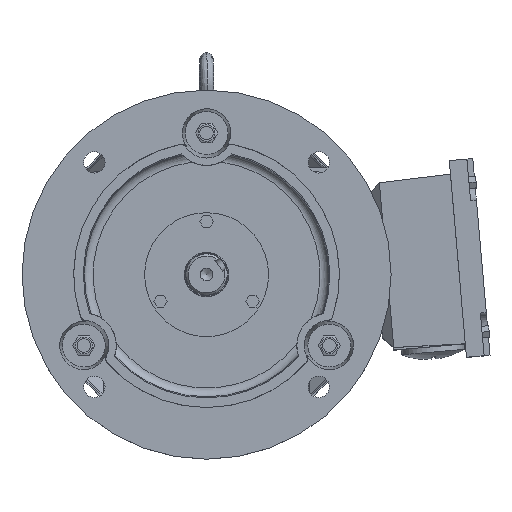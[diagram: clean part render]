
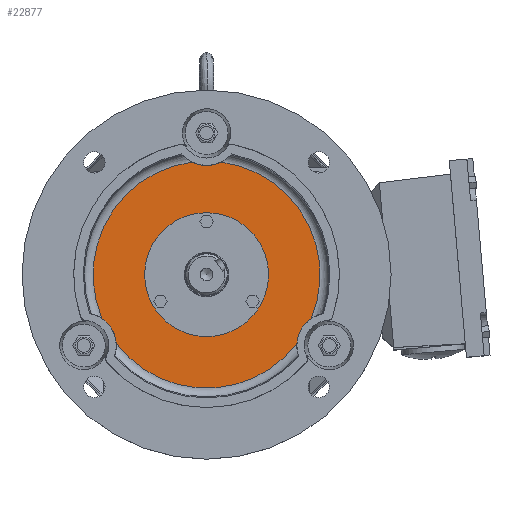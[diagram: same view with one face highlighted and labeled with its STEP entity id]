
A CAD part, top view. The second image highlights one B-rep face of the part: STEP entity #22877.
In plain terms, the highlighted planar face has unit normal (0, 0, 1) as drawn and (-1, 0, 0) by its records, which use the part's own axes.
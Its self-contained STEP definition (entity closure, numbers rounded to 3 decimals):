
#918=PLANE('',#25154);
#1125=FACE_BOUND('',#4036,.T.);
#2608=FACE_OUTER_BOUND('',#4035,.T.);
#4035=EDGE_LOOP('',(#20776,#20777,#20778,#20779,#20780,#20781));
#4036=EDGE_LOOP('',(#20782));
#4997=CIRCLE('',#25054,42.);
#5022=CIRCLE('',#25088,22.);
#5036=CIRCLE('',#25107,76.849);
#5057=CIRCLE('',#25137,76.849);
#5060=CIRCLE('',#25142,76.849);
#5067=CIRCLE('',#25155,22.);
#5068=CIRCLE('',#25156,22.);
#11087=VERTEX_POINT('',#40044);
#11113=VERTEX_POINT('',#40113);
#11114=VERTEX_POINT('',#40126);
#11130=VERTEX_POINT('',#40185);
#11131=VERTEX_POINT('',#40186);
#11175=VERTEX_POINT('',#40333);
#11178=VERTEX_POINT('',#40357);
#14293=EDGE_CURVE('',#11087,#11087,#4997,.T.);
#14327=EDGE_CURVE('',#11113,#11114,#5022,.T.);
#14348=EDGE_CURVE('',#11130,#11131,#5036,.T.);
#14397=EDGE_CURVE('',#11113,#11175,#5057,.T.);
#14401=EDGE_CURVE('',#11178,#11114,#5060,.T.);
#14426=EDGE_CURVE('',#11130,#11175,#5067,.T.);
#14427=EDGE_CURVE('',#11178,#11131,#5068,.T.);
#20776=ORIENTED_EDGE('',*,*,#14397,.T.);
#20777=ORIENTED_EDGE('',*,*,#14426,.F.);
#20778=ORIENTED_EDGE('',*,*,#14348,.T.);
#20779=ORIENTED_EDGE('',*,*,#14427,.F.);
#20780=ORIENTED_EDGE('',*,*,#14401,.T.);
#20781=ORIENTED_EDGE('',*,*,#14327,.F.);
#20782=ORIENTED_EDGE('',*,*,#14293,.F.);
#22877=ADVANCED_FACE('',(#2608,#1125),#918,.F.);
#25054=AXIS2_PLACEMENT_3D('',#40046,#31157,#31158);
#25088=AXIS2_PLACEMENT_3D('',#40127,#31233,#31234);
#25107=AXIS2_PLACEMENT_3D('',#40187,#31275,#31276);
#25137=AXIS2_PLACEMENT_3D('',#40346,#31356,#31357);
#25142=AXIS2_PLACEMENT_3D('',#40358,#31366,#31367);
#25154=AXIS2_PLACEMENT_3D('',#40535,#31392,#31393);
#25155=AXIS2_PLACEMENT_3D('',#40536,#31394,#31395);
#25156=AXIS2_PLACEMENT_3D('',#40537,#31396,#31397);
#31157=DIRECTION('center_axis',(-1.,0.,0.));
#31158=DIRECTION('ref_axis',(0.,0.,1.));
#31233=DIRECTION('center_axis',(-1.,0.,0.));
#31234=DIRECTION('ref_axis',(0.,0.,-1.));
#31275=DIRECTION('center_axis',(-1.,0.,0.));
#31276=DIRECTION('ref_axis',(0.,0.,1.));
#31356=DIRECTION('center_axis',(-1.,0.,0.));
#31357=DIRECTION('ref_axis',(0.,0.,1.));
#31366=DIRECTION('center_axis',(-1.,0.,0.));
#31367=DIRECTION('ref_axis',(0.,0.,1.));
#31392=DIRECTION('center_axis',(1.,0.,0.));
#31393=DIRECTION('ref_axis',(0.,0.,-1.));
#31394=DIRECTION('center_axis',(-1.,0.,0.));
#31395=DIRECTION('ref_axis',(0.,0.,-1.));
#31396=DIRECTION('center_axis',(-1.,0.,0.));
#31397=DIRECTION('ref_axis',(0.,0.,-1.));
#40044=CARTESIAN_POINT('',(9.,0.,-42.));
#40046=CARTESIAN_POINT('Origin',(9.,0.,0.));
#40113=CARTESIAN_POINT('',(9.,-46.493,-61.19));
#40126=CARTESIAN_POINT('',(9.,-29.746,-70.859));
#40127=CARTESIAN_POINT('Origin',(9.,-48.,-83.138));
#40185=CARTESIAN_POINT('',(9.,-29.746,70.859));
#40186=CARTESIAN_POINT('',(9.,76.239,9.669));
#40187=CARTESIAN_POINT('Origin',(9.,0.,0.));
#40333=CARTESIAN_POINT('',(9.,-46.493,61.19));
#40346=CARTESIAN_POINT('Origin',(9.,0.,0.));
#40357=CARTESIAN_POINT('',(9.,76.239,-9.669));
#40358=CARTESIAN_POINT('Origin',(9.,0.,0.));
#40535=CARTESIAN_POINT('Origin',(9.,15.,0.));
#40536=CARTESIAN_POINT('Origin',(9.,-48.,83.138));
#40537=CARTESIAN_POINT('Origin',(9.,96.,0.));
